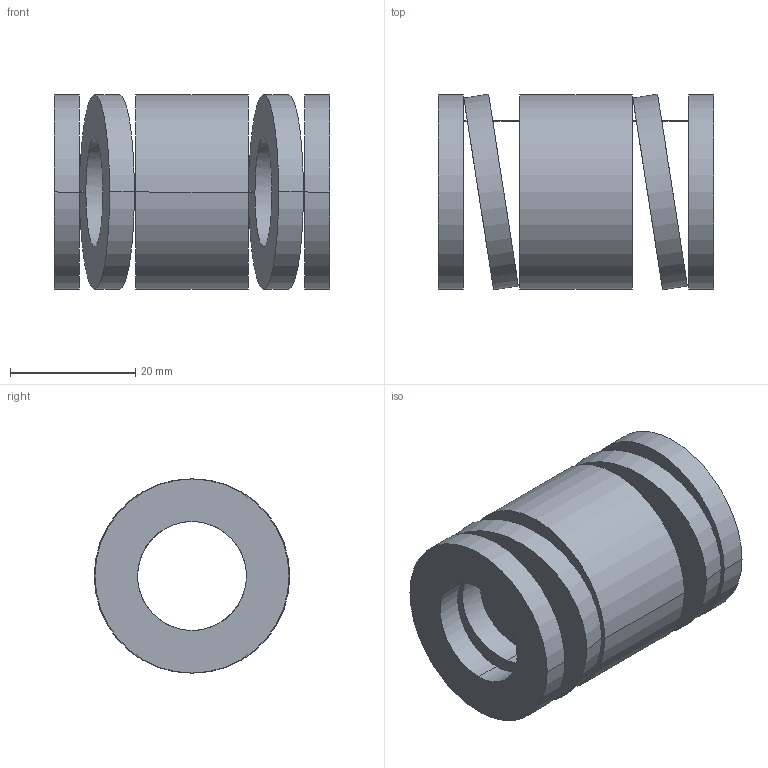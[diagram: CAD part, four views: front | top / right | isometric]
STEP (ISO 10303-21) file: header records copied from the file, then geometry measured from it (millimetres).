
FILE_DESCRIPTION(('CATIA V5 STEP Exchange'),'2;1');
FILE_NAME('C:\Users\Utente\Desktop\IO LAVORO\3D X SITO CF\X SITO\3D files 392B\392-B32-044.stp','2021-08-13T10:11:28+00:00',('none'),('none'),'CATIA Version 5 Release 20 GA (IN-10)','CATIA V5 STEP AP203','none');
FILE_SCHEMA(('CONFIG_CONTROL_DESIGN'));
Length unit declared in the file: millimetre
Products named in the file (1): 392-B32-044
Bounding box: 44 x 31.25 x 31 mm (x, y, z)
Volume: 17554.8 mm3; surface area: 10339.4 mm2
Topology: 1 solids, 1 shells, 38 faces, 92 edges, 64 vertices
Faces by surface type: cylinder 28, plane 10
Entity records: 1542 total; most frequent: CARTESIAN_POINT 643, ORIENTED_EDGE 184, DIRECTION 134, EDGE_CURVE 92, AXIS2_PLACEMENT_3D 69, VERTEX_POINT 64, EDGE_LOOP 56, ADVANCED_FACE 38
